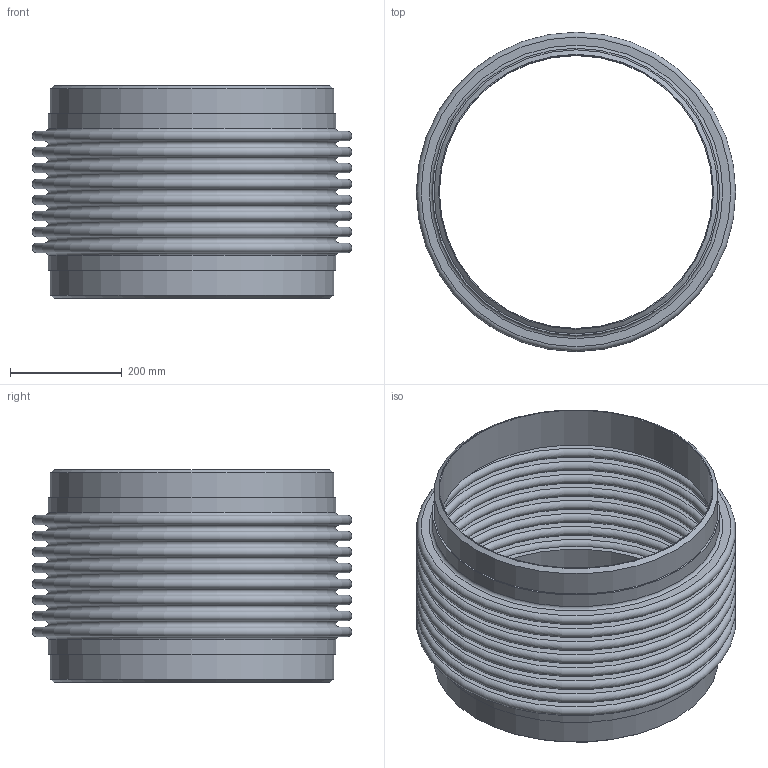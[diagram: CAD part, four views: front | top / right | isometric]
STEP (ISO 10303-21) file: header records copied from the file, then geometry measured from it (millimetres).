
FILE_DESCRIPTION(/* description */ ('EXPANSION JOINT,SINGLE, WELD ENDS,4 INCH NOMINAL'),/* implementation_level */ '2;1');
FILE_NAME(/* name */ 'US-20-300S- WELD-ENDS.stp',/* time_stamp */ '2026-07-28T11:18:31-05:00',/* author */ ('jorgef'),/* organization */ (''),/* preprocessor_version */ 'ST-DEVELOPER v20.1',/* originating_system */ 'Autodesk Inventor 2026',/* authorisation */ '');
FILE_SCHEMA (('AUTOMOTIVE_DESIGN { 1 0 10303 214 3 1 1 }'));
Length unit declared in the file: inch
Products named in the file (3): SINGLE STOCK  BELLOW WELDED ENDS 20-300 PSIG; STOCK BELLOW - US-20-8-300S; PIPE- 20 - 300 PSIG
Assembly tree (3 placements, depth 2):
  SINGLE STOCK  BELLOW WELDED ENDS 20-300 PSIG
    STOCK BELLOW - US-20-8-300S
    PIPE- 20 - 300 PSIG  x2
Bounding box: 571.5 x 571.5 x 381 mm (x, y, z)
Volume: 5493370 mm3; surface area: 2716452.6 mm2
Topology: 5 solids, 5 shells, 86 faces, 132 edges, 89 vertices
Faces by surface type: plane 42, torus 34, cylinder 8, cone 2
Full cylindrical faces by diameter (mm): 488.95 x2, 508 x4, 514.096 x2
Entity records: 2033 total; most frequent: DIRECTION 413, CARTESIAN_POINT 293, ORIENTED_EDGE 246, AXIS2_PLACEMENT_3D 203, EDGE_CURVE 123, EDGE_LOOP 121, CIRCLE 116, VERTEX_POINT 82
